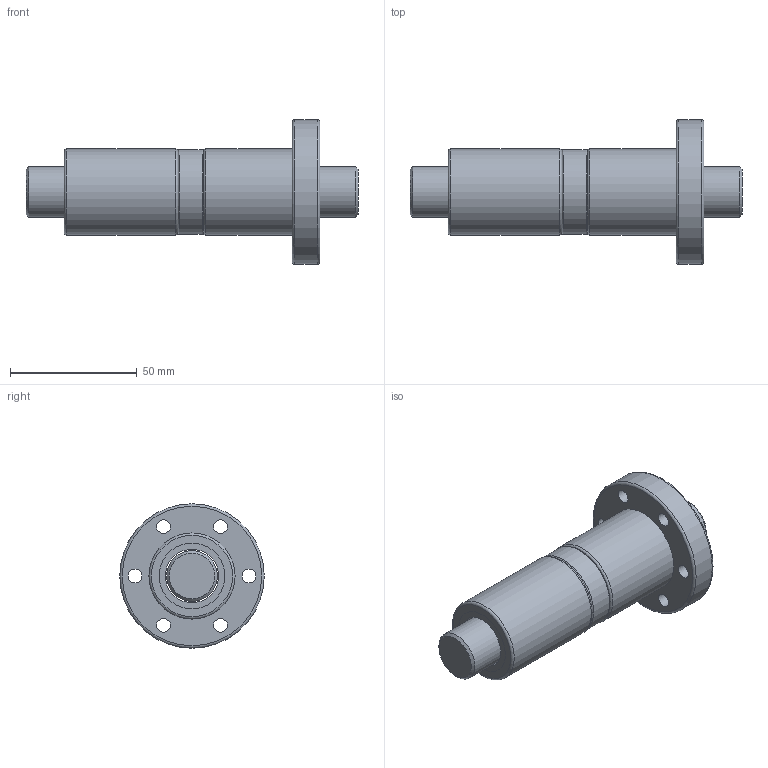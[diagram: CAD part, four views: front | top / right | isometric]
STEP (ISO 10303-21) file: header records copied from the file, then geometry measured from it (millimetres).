
FILE_DESCRIPTION(/* description */ (''),/* implementation_level */ '2;1');
FILE_NAME(/* name */ 'DFI2005',/* time_stamp */ '2007-10-26T11:49:33+08:00',/* author */ (''),/* organization */ (''),/* preprocessor_version */ 'ST-DEVELOPER v9',/* originating_system */ 'EDS PLM SOLUTIONS - UNIGRAPHICS NX 1.0',/* authorisation */ '');
FILE_SCHEMA (('CONFIG_CONTROL_DESIGN'));
Length unit declared in the file: millimetre
Products named in the file (1): FANNDA0400fl
Bounding box: 131 x 57 x 57 mm (x, y, z)
Volume: 112350.3 mm3; surface area: 37247.5 mm2
Topology: 6 solids, 6 shells, 56 faces, 101 edges, 66 vertices
Faces by surface type: cylinder 26, plane 21, torus 7, cone 2
Full cylindrical faces by diameter (mm): 5.5 x6, 9.5 x6, 20 x1, 21 x5, 26 x4, 33.5 x1, 34 x2, 57 x1
Entity records: 1294 total; most frequent: DIRECTION 236, CARTESIAN_POINT 179, EDGE_LOOP 122, ORIENTED_EDGE 122, AXIS2_PLACEMENT_3D 118, FACE_BOUND 99, VERTEX_POINT 61, EDGE_CURVE 61
